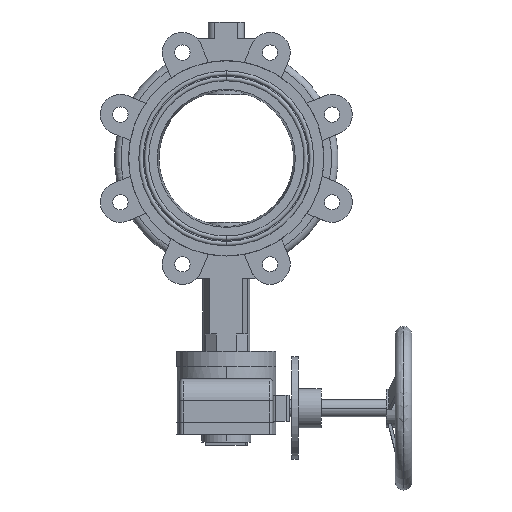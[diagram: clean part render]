
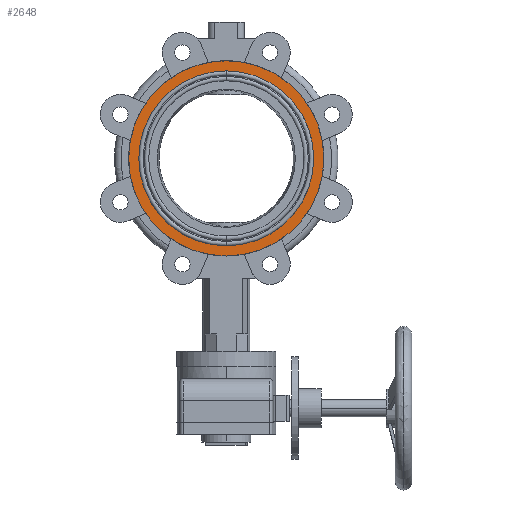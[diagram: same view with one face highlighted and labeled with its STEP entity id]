
A CAD part, front view. The second image highlights one B-rep face of the part: STEP entity #2648.
In plain terms, the highlighted planar face has unit normal (0, -1, 0).
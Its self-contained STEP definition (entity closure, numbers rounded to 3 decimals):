
#57 = CARTESIAN_POINT ( 'NONE',  ( 89.5, -29., 0. ) ) ;
#161 = ORIENTED_EDGE ( 'NONE', *, *, #2733, .F. ) ;
#165 = FACE_OUTER_BOUND ( 'NONE', #5920, .T. ) ;
#383 = CARTESIAN_POINT ( 'NONE',  ( 0., -29., 0. ) ) ;
#456 = CARTESIAN_POINT ( 'NONE',  ( -80.2, -29., 0. ) ) ;
#864 = CARTESIAN_POINT ( 'NONE',  ( 80.2, -29., 0. ) ) ;
#1011 = EDGE_LOOP ( 'NONE', ( #2186, #8817 ) ) ;
#1529 = DIRECTION ( 'NONE',  ( 0., 1., 0. ) ) ;
#1712 = AXIS2_PLACEMENT_3D ( 'NONE', #383, #7968, #10580 ) ;
#1921 = CIRCLE ( 'NONE', #7515, 89.5 ) ;
#2186 = ORIENTED_EDGE ( 'NONE', *, *, #2528, .T. ) ;
#2276 = EDGE_CURVE ( 'NONE', #4225, #7942, #1921, .T. ) ;
#2528 = EDGE_CURVE ( 'NONE', #4265, #7899, #9867, .T. ) ;
#2648 = ADVANCED_FACE ( 'NONE', ( #165, #3106 ), #3510, .F. ) ;
#2733 = EDGE_CURVE ( 'NONE', #7942, #4225, #3697, .T. ) ;
#3074 = DIRECTION ( 'NONE',  ( -1., 0., 0. ) ) ;
#3106 = FACE_BOUND ( 'NONE', #1011, .T. ) ;
#3510 = PLANE ( 'NONE',  #10410 ) ;
#3697 = CIRCLE ( 'NONE', #1712, 89.5 ) ;
#3916 = DIRECTION ( 'NONE',  ( 0., 1., 0. ) ) ;
#3987 = EDGE_CURVE ( 'NONE', #7899, #4265, #9668, .T. ) ;
#4225 = VERTEX_POINT ( 'NONE', #7901 ) ;
#4265 = VERTEX_POINT ( 'NONE', #864 ) ;
#4501 = CARTESIAN_POINT ( 'NONE',  ( 0., -29., 0. ) ) ;
#4972 = AXIS2_PLACEMENT_3D ( 'NONE', #8317, #1529, #6628 ) ;
#5152 = DIRECTION ( 'NONE',  ( 0., 1., 0. ) ) ;
#5251 = DIRECTION ( 'NONE',  ( -1., 0., 0. ) ) ;
#5503 = CARTESIAN_POINT ( 'NONE',  ( 0., -29., 0. ) ) ;
#5920 = EDGE_LOOP ( 'NONE', ( #7002, #161 ) ) ;
#6236 = DIRECTION ( 'NONE',  ( -1., 0., 0. ) ) ;
#6628 = DIRECTION ( 'NONE',  ( -1., 0., 0. ) ) ;
#7002 = ORIENTED_EDGE ( 'NONE', *, *, #2276, .F. ) ;
#7014 = DIRECTION ( 'NONE',  ( 0., 1., 0. ) ) ;
#7515 = AXIS2_PLACEMENT_3D ( 'NONE', #9624, #5152, #6236 ) ;
#7678 = AXIS2_PLACEMENT_3D ( 'NONE', #5503, #3916, #3074 ) ;
#7899 = VERTEX_POINT ( 'NONE', #456 ) ;
#7901 = CARTESIAN_POINT ( 'NONE',  ( -89.5, -29., 0. ) ) ;
#7942 = VERTEX_POINT ( 'NONE', #57 ) ;
#7968 = DIRECTION ( 'NONE',  ( 0., 1., 0. ) ) ;
#8317 = CARTESIAN_POINT ( 'NONE',  ( 0., -29., 0. ) ) ;
#8817 = ORIENTED_EDGE ( 'NONE', *, *, #3987, .T. ) ;
#9624 = CARTESIAN_POINT ( 'NONE',  ( 0., -29., 0. ) ) ;
#9668 = CIRCLE ( 'NONE', #7678, 80.2 ) ;
#9867 = CIRCLE ( 'NONE', #4972, 80.2 ) ;
#10410 = AXIS2_PLACEMENT_3D ( 'NONE', #4501, #7014, #5251 ) ;
#10580 = DIRECTION ( 'NONE',  ( -1., 0., 0. ) ) ;
